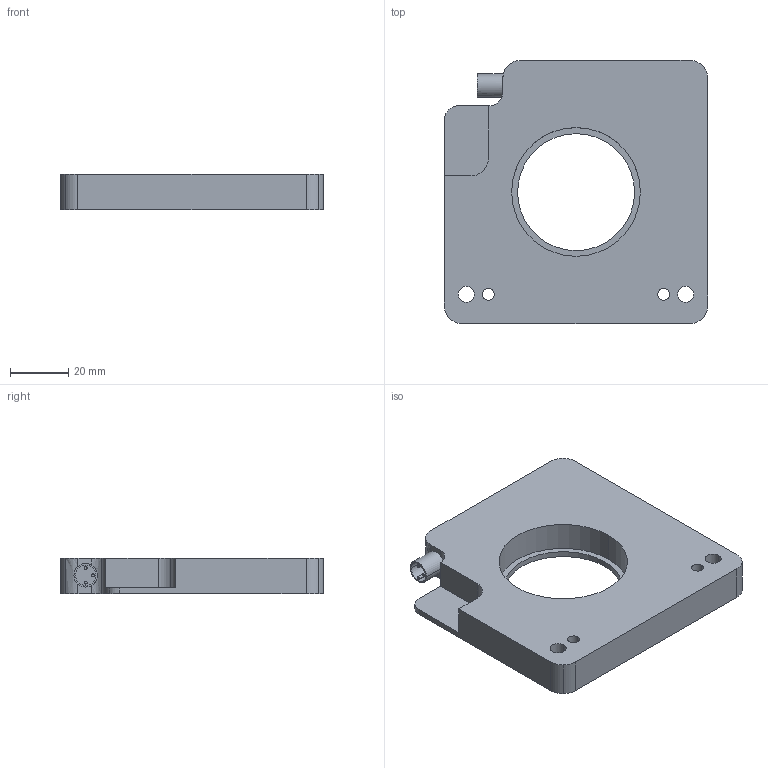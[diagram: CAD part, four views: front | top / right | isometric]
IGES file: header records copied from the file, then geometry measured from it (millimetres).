
Start section: IMSI TurboCAD v14.0
Global section: author: NULL; organization: NULL; date: 20190521.154053; units: millimetre
Bounding box: 90 x 90 x 12 mm (x, y, z)
Surface area: 19843.9 mm2 (no closed solid volume)
Topology: 0 solids, 0 shells, 60 faces, 306 edges, 306 vertices
Faces by surface type: revolution 40, extrusion 20
